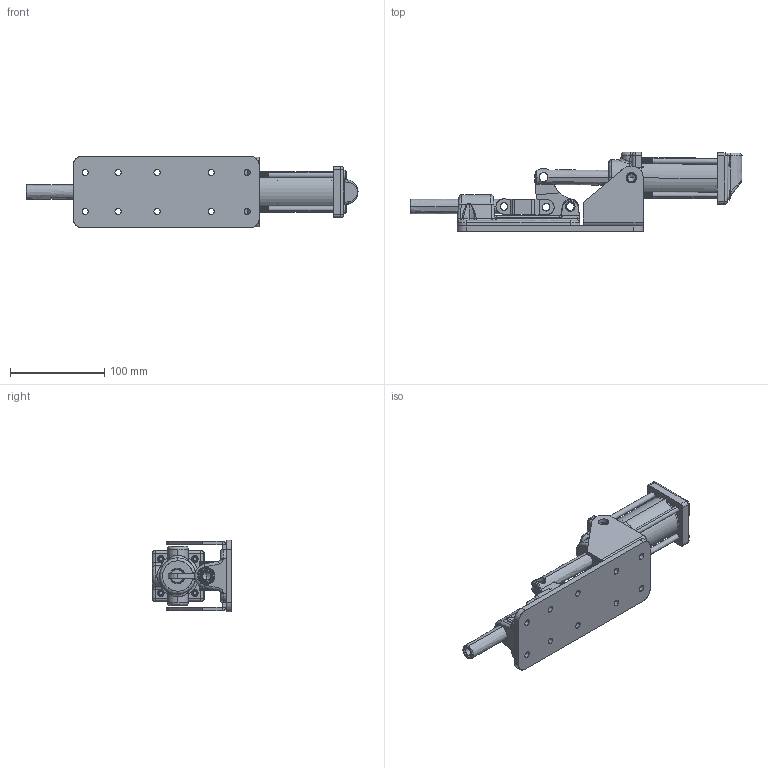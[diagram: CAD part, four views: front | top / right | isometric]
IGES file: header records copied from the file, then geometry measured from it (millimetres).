
Start section: SolidWorks IGES file using analytic representation for surfaces
Global section: file name: D:\GH Files\GH-SW-FILES\GH-A\36330A\36330A\36330A.IGS; native system: SolidWorks 2006 by SolidWorks Corporation; preprocessor: SolidWorks 2006 by SolidWorks Corporation; author: Administrator; date: 060526.122656; units: millimetre
Bounding box: 351.54 x 84.06 x 76.2 mm (x, y, z)
Surface area: 162381.4 mm2 (no closed solid volume)
Topology: 0 solids, 0 shells, 1127 faces, 11401 edges, 11382 vertices
Faces by surface type: revolution 821, bspline 306
